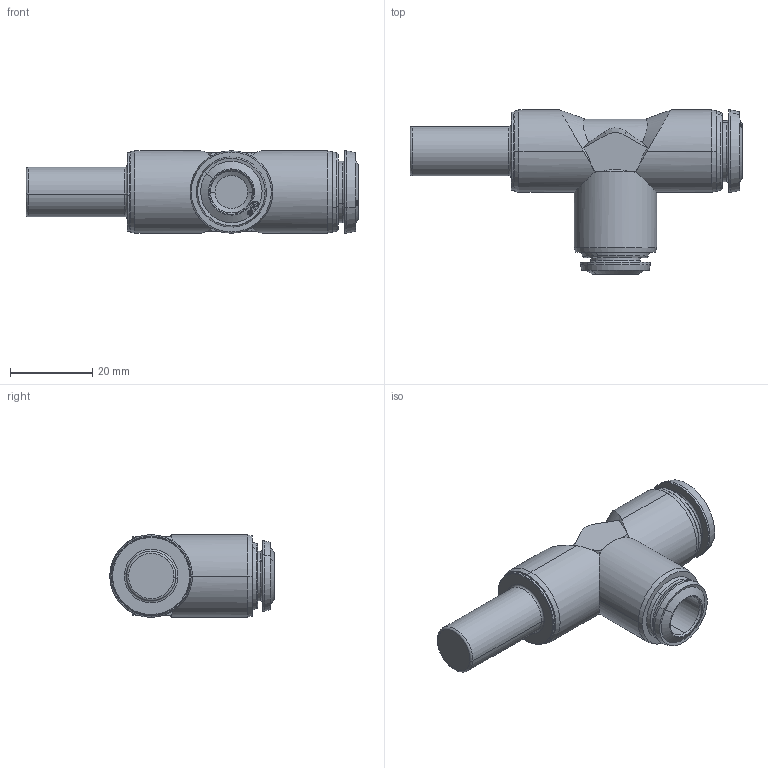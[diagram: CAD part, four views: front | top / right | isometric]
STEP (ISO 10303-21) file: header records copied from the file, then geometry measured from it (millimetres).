
FILE_DESCRIPTION (( 'STEP AP214' ), '1' );
FILE_NAME ('5523500012A.STEP', '2025-09-05T13:02:17', ( '' ), ( '' ), 'SwSTEP 2.0', 'SolidWorks 2020', '' );
FILE_SCHEMA (( 'AUTOMOTIVE_DESIGN' ));
Length unit declared in the file: millimetre
Products named in the file (1): 5523500012A
Bounding box: 80.5 x 39.8 x 20 mm (x, y, z)
Volume: 20367 mm3; surface area: 8247.2 mm2
Topology: 1 solids, 3 shells, 222 faces, 571 edges, 374 vertices
Faces by surface type: bspline 98, cone 56, plane 29, cylinder 27, torus 12
Entity records: 15832 total; most frequent: CARTESIAN_POINT 8967, ORIENTED_EDGE 1142, EDGE_CURVE 571, DIRECTION 561, VERTEX_POINT 374, B_SPLINE_CURVE_WITH_KNOTS 350, EDGE_LOOP 241, AXIS2_PLACEMENT_3D 237
